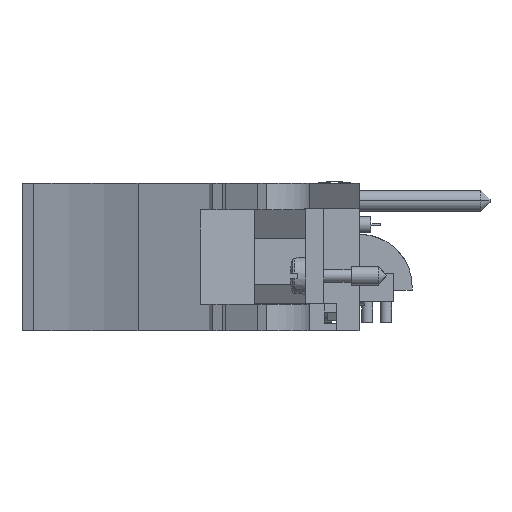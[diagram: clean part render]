
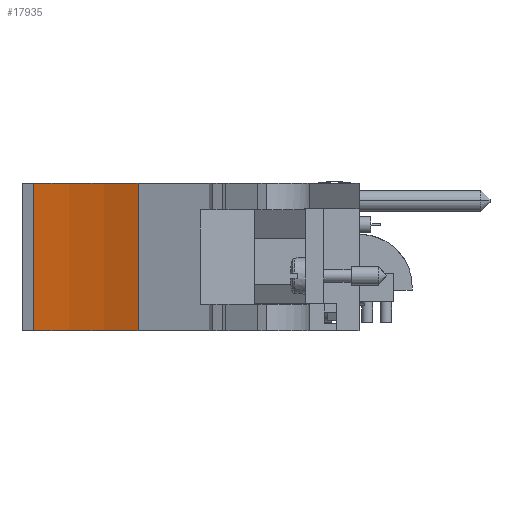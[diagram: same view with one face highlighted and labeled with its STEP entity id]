
A CAD part, front view. The second image highlights one B-rep face of the part: STEP entity #17935.
In plain terms, the highlighted cylindrical face has radius 51.46 mm (diameter 102.919 mm), a partial arc.
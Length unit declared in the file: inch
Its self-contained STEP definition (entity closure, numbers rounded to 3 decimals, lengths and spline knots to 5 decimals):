
#1445=DIRECTION('',(0.,0.,1.));
#1446=VECTOR('',#1445,0.788);
#1447=CARTESIAN_POINT('',(-1.09503,-4.12655,-0.093));
#1448=LINE('',#1447,#1446);
#1506=CARTESIAN_POINT('',(-1.97633,-5.95079,-0.093));
#1507=DIRECTION('',(0.,0.,1.));
#1508=DIRECTION('',(0.435,0.9,0.));
#1509=AXIS2_PLACEMENT_3D('',#1506,#1507,#1508);
#1820=CARTESIAN_POINT('',(-1.97633,-5.95079,0.695));
#1821=DIRECTION('',(0.,0.,1.));
#1822=DIRECTION('',(0.435,0.9,0.));
#1823=AXIS2_PLACEMENT_3D('',#1820,#1821,#1822);
#2064=DIRECTION('',(0.,0.,1.));
#2065=VECTOR('',#2064,0.788);
#2066=CARTESIAN_POINT('',(-1.653,-3.95079,-0.093));
#2067=LINE('',#2066,#2065);
#13377=CARTESIAN_POINT('',(-1.09503,-4.12655,-0.093));
#13378=CARTESIAN_POINT('',(-1.653,-3.95079,-0.093));
#13379=VERTEX_POINT('',#13377);
#13380=VERTEX_POINT('',#13378);
#13381=CARTESIAN_POINT('',(-1.09503,-4.12655,0.695));
#13382=CARTESIAN_POINT('',(-1.653,-3.95079,0.695));
#13383=VERTEX_POINT('',#13381);
#13384=VERTEX_POINT('',#13382);
#17921=CARTESIAN_POINT('',(-1.97633,-5.95079,0.695));
#17922=DIRECTION('',(0.,0.,1.));
#17923=DIRECTION('',(0.,1.,0.));
#17924=AXIS2_PLACEMENT_3D('',#17921,#17922,#17923);
#17925=CYLINDRICAL_SURFACE('',#17924,2.02597);
#17927=ORIENTED_EDGE('',*,*,#17926,.T.);
#17929=ORIENTED_EDGE('',*,*,#17928,.T.);
#17931=ORIENTED_EDGE('',*,*,#17930,.F.);
#17932=ORIENTED_EDGE('',*,*,#17904,.F.);
#17933=EDGE_LOOP('',(#17927,#17929,#17931,#17932));
#17934=FACE_OUTER_BOUND('',#17933,.F.);
#17935=ADVANCED_FACE('',(#17934),#17925,.F.);
#1510=CIRCLE('',#1509,2.02597);
#1824=CIRCLE('',#1823,2.02597);
#17904=EDGE_CURVE('',#13379,#13383,#1448,.T.);
#17926=EDGE_CURVE('',#13379,#13380,#1510,.T.);
#17928=EDGE_CURVE('',#13380,#13384,#2067,.T.);
#17930=EDGE_CURVE('',#13383,#13384,#1824,.T.);
